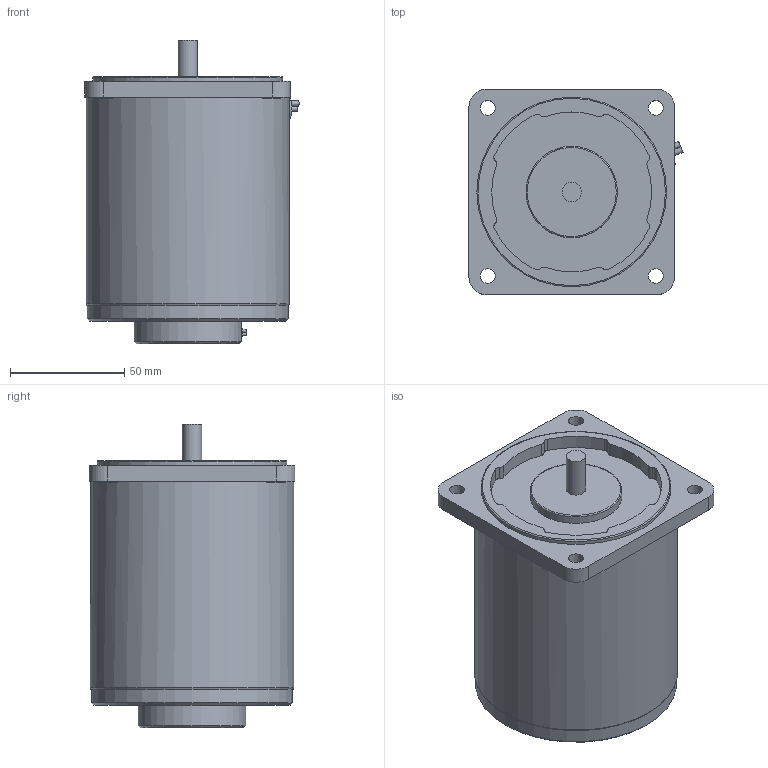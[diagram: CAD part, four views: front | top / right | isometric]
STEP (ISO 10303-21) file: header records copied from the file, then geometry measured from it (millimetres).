
FILE_DESCRIPTION((''),'2;1');
FILE_NAME('E:\2공장-도면\3D\표준형 3D(민규)\step file\SU,SP\K9IG40Nㅁ-Sㅁ.stp','2014-11-14T14:05:23',('AHN'),(''),'Autodesk Inventor 2012','Autodesk Inventor 2012','');
FILE_SCHEMA(('CONFIG_CONTROL_DESIGN'));
Length unit declared in the file: millimetre
Products named in the file (1): K9IG40Nㅁ-Sㅁ
Bounding box: 93.75 x 90 x 133 mm (x, y, z)
Volume: 673691 mm3; surface area: 50525.4 mm2
Topology: 1 solids, 1 shells, 81 faces, 184 edges, 114 vertices
Faces by surface type: cylinder 52, plane 24, torus 3, cone 2
Full cylindrical faces by diameter (mm): 1.4 x2, 6.5 x4, 7 x1, 8 x4, 8.47 x1, 40 x1, 47 x1, 83 x1, 88 x1, 89 x1
Entity records: 2260 total; most frequent: DIRECTION 427, CARTESIAN_POINT 413, ORIENTED_EDGE 318, AXIS2_PLACEMENT_3D 188, EDGE_CURVE 159, EDGE_LOOP 122, VERTEX_POINT 109, CIRCLE 106
